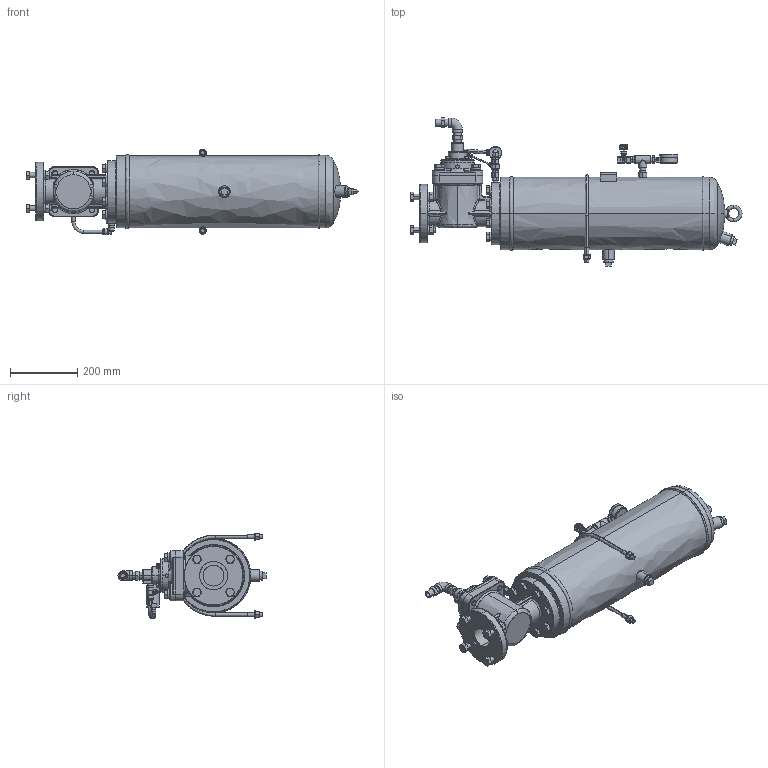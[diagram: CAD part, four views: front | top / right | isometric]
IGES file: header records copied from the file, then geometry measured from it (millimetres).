
Start section: SolidWorks IGES file using analytic representation for surfaces
Global section: file name: V:\WORK\08133\HP Defeature\blaster\EDB2.5-20A\IGS_STEP僼傽僀儖\EDB2.5-20A.IGS; native system: SolidWorks 2022; preprocessor: SolidWorks 2022; author: n-udagawa; date: 250422.093215; units: millimetre
Bounding box: 990.73 x 442.95 x 255.47 mm (x, y, z)
Surface area: 900954.7 mm2 (no closed solid volume)
Topology: 0 solids, 0 shells, 1751 faces, 26801 edges, 26776 vertices
Faces by surface type: revolution 914, bspline 837
